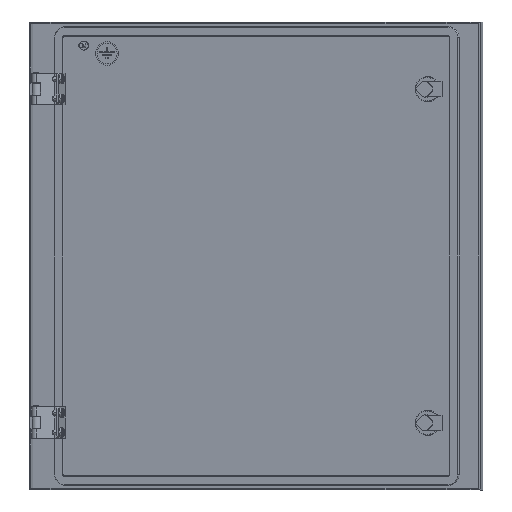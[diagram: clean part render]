
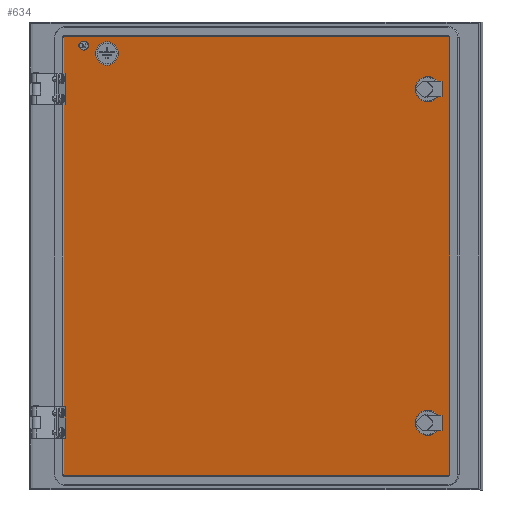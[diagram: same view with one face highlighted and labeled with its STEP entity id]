
A CAD part, left-side view. The second image highlights one B-rep face of the part: STEP entity #634.
In plain terms, the highlighted planar face has unit normal (-0.966, 0.259, 0).
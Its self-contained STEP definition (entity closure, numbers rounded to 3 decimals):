
#4 = DIRECTION ( 'NONE',  ( 0.259, 0.966, 0. ) ) ;
#320 = LINE ( 'NONE', #17538, #16771 ) ;
#327 = DIRECTION ( 'NONE',  ( 0., 0., -1. ) ) ;
#634 = ADVANCED_FACE ( 'NONE', ( #13856, #5663, #15005, #20043, #16892 ), #939, .F. ) ;
#830 = EDGE_CURVE ( 'NONE', #14216, #9685, #3694, .T. ) ;
#939 = PLANE ( 'NONE',  #12724 ) ;
#990 = EDGE_LOOP ( 'NONE', ( #12471, #2583, #7085, #2912, #11957, #3995, #13899, #17190 ) ) ;
#1221 = VERTEX_POINT ( 'NONE', #6758 ) ;
#1523 = CARTESIAN_POINT ( 'NONE',  ( -146.539, -533.058, 237.5 ) ) ;
#1619 = ORIENTED_EDGE ( 'NONE', *, *, #7701, .F. ) ;
#1859 = DIRECTION ( 'NONE',  ( -0.966, 0.259, 0. ) ) ;
#2038 = LINE ( 'NONE', #8443, #19100 ) ;
#2225 = CARTESIAN_POINT ( 'NONE',  ( -33.283, -109.954, 283. ) ) ;
#2331 = CARTESIAN_POINT ( 'NONE',  ( -22.94, -71.314, -255. ) ) ;
#2477 = CARTESIAN_POINT ( 'NONE',  ( -154.038, -561.072, 303. ) ) ;
#2583 = ORIENTED_EDGE ( 'NONE', *, *, #9464, .T. ) ;
#2605 = VECTOR ( 'NONE', #18581, 1000. ) ;
#2912 = ORIENTED_EDGE ( 'NONE', *, *, #11276, .T. ) ;
#2918 = EDGE_CURVE ( 'NONE', #14029, #15462, #19951, .T. ) ;
#2957 = EDGE_CURVE ( 'NONE', #17056, #13392, #18023, .T. ) ;
#3025 = CARTESIAN_POINT ( 'NONE',  ( -37.161, -124.444, 283. ) ) ;
#3071 = DIRECTION ( 'NONE',  ( 0.259, 0.966, 0. ) ) ;
#3278 = CARTESIAN_POINT ( 'NONE',  ( -22.422, -69.382, -253. ) ) ;
#3469 = AXIS2_PLACEMENT_3D ( 'NONE', #19749, #19959, #3997 ) ;
#3513 = EDGE_CURVE ( 'NONE', #15583, #4197, #4635, .T. ) ;
#3694 = CIRCLE ( 'NONE', #5374, 15. ) ;
#3920 = CARTESIAN_POINT ( 'NONE',  ( -150.676, -548.514, -187.5 ) ) ;
#3950 = EDGE_CURVE ( 'NONE', #8184, #14689, #13714, .T. ) ;
#3995 = ORIENTED_EDGE ( 'NONE', *, *, #3513, .F. ) ;
#3997 = DIRECTION ( 'NONE',  ( 0.259, 0.966, 0. ) ) ;
#4048 = VERTEX_POINT ( 'NONE', #14754 ) ;
#4197 = VERTEX_POINT ( 'NONE', #2477 ) ;
#4393 = EDGE_CURVE ( 'NONE', #4048, #15583, #2038, .T. ) ;
#4472 = CIRCLE ( 'NONE', #3469, 2.65 ) ;
#4635 = CIRCLE ( 'NONE', #12354, 2. ) ;
#5070 = AXIS2_PLACEMENT_3D ( 'NONE', #16145, #14568, #8264 ) ;
#5079 = VERTEX_POINT ( 'NONE', #7427 ) ;
#5374 = AXIS2_PLACEMENT_3D ( 'NONE', #3025, #18988, #10689 ) ;
#5663 = FACE_BOUND ( 'NONE', #13782, .T. ) ;
#6040 = EDGE_CURVE ( 'NONE', #4197, #1221, #10098, .T. ) ;
#6206 = CARTESIAN_POINT ( 'NONE',  ( -146.539, -533.058, -187.5 ) ) ;
#6218 = CARTESIAN_POINT ( 'NONE',  ( -22.94, -71.314, -253. ) ) ;
#6244 = CIRCLE ( 'NONE', #13300, 16. ) ;
#6262 = CIRCLE ( 'NONE', #6593, 2. ) ;
#6576 = CARTESIAN_POINT ( 'NONE',  ( -29.404, -95.464, 293. ) ) ;
#6593 = AXIS2_PLACEMENT_3D ( 'NONE', #6218, #19240, #3071 ) ;
#6758 = CARTESIAN_POINT ( 'NONE',  ( -154.038, -561.072, -253. ) ) ;
#6798 = ORIENTED_EDGE ( 'NONE', *, *, #830, .F. ) ;
#6945 = EDGE_LOOP ( 'NONE', ( #1619, #6798 ) ) ;
#7085 = ORIENTED_EDGE ( 'NONE', *, *, #20128, .T. ) ;
#7153 = CIRCLE ( 'NONE', #18890, 2. ) ;
#7198 = CARTESIAN_POINT ( 'NONE',  ( -150.676, -548.514, 237.5 ) ) ;
#7209 = EDGE_CURVE ( 'NONE', #7955, #17262, #18121, .T. ) ;
#7222 = CARTESIAN_POINT ( 'NONE',  ( -30.067, -97.942, 292.334 ) ) ;
#7355 = CARTESIAN_POINT ( 'NONE',  ( -41.04, -138.934, 283. ) ) ;
#7356 = CIRCLE ( 'NONE', #12719, 16. ) ;
#7357 = DIRECTION ( 'NONE',  ( 0.259, 0.966, 0. ) ) ;
#7427 = CARTESIAN_POINT ( 'NONE',  ( -153.521, -559.14, -255. ) ) ;
#7648 = DIRECTION ( 'NONE',  ( 0.966, -0.259, 0. ) ) ;
#7701 = EDGE_CURVE ( 'NONE', #9685, #14216, #11765, .T. ) ;
#7955 = VERTEX_POINT ( 'NONE', #7222 ) ;
#8184 = VERTEX_POINT ( 'NONE', #7198 ) ;
#8264 = DIRECTION ( 'NONE',  ( 0., 0., -1. ) ) ;
#8399 = CARTESIAN_POINT ( 'NONE',  ( -142.402, -517.602, -187.5 ) ) ;
#8443 = CARTESIAN_POINT ( 'NONE',  ( -22.94, -71.314, 305. ) ) ;
#8606 = ORIENTED_EDGE ( 'NONE', *, *, #2957, .F. ) ;
#8969 = EDGE_CURVE ( 'NONE', #14689, #8184, #6244, .T. ) ;
#8973 = AXIS2_PLACEMENT_3D ( 'NONE', #20049, #9024, #12374 ) ;
#9024 = DIRECTION ( 'NONE',  ( -0.966, 0.259, 0. ) ) ;
#9065 = AXIS2_PLACEMENT_3D ( 'NONE', #6576, #1859, #13187 ) ;
#9229 = DIRECTION ( 'NONE',  ( 0., 0., 1. ) ) ;
#9464 = EDGE_CURVE ( 'NONE', #14029, #17477, #6262, .T. ) ;
#9685 = VERTEX_POINT ( 'NONE', #2225 ) ;
#9772 = CARTESIAN_POINT ( 'NONE',  ( -22.94, -71.314, 303. ) ) ;
#10098 = LINE ( 'NONE', #17867, #20764 ) ;
#10684 = AXIS2_PLACEMENT_3D ( 'NONE', #19177, #11391, #12556 ) ;
#10689 = DIRECTION ( 'NONE',  ( 0.259, 0.966, 0. ) ) ;
#10720 = DIRECTION ( 'NONE',  ( -0.966, 0.259, 0. ) ) ;
#11220 = DIRECTION ( 'NONE',  ( 0.259, 0.966, 0. ) ) ;
#11276 = EDGE_CURVE ( 'NONE', #5079, #1221, #12765, .T. ) ;
#11391 = DIRECTION ( 'NONE',  ( -0.966, 0.259, 0. ) ) ;
#11765 = CIRCLE ( 'NONE', #14451, 15. ) ;
#11812 = ORIENTED_EDGE ( 'NONE', *, *, #8969, .F. ) ;
#11957 = ORIENTED_EDGE ( 'NONE', *, *, #6040, .F. ) ;
#11970 = CARTESIAN_POINT ( 'NONE',  ( -22.422, -69.382, 25. ) ) ;
#12170 = CARTESIAN_POINT ( 'NONE',  ( -153.521, -559.14, 303. ) ) ;
#12354 = AXIS2_PLACEMENT_3D ( 'NONE', #12170, #7648, #9229 ) ;
#12374 = DIRECTION ( 'NONE',  ( 0.259, 0.966, 0. ) ) ;
#12471 = ORIENTED_EDGE ( 'NONE', *, *, #2918, .F. ) ;
#12556 = DIRECTION ( 'NONE',  ( 0.259, 0.966, 0. ) ) ;
#12695 = DIRECTION ( 'NONE',  ( 0.966, -0.259, 0. ) ) ;
#12719 = AXIS2_PLACEMENT_3D ( 'NONE', #6206, #14076, #7357 ) ;
#12724 = AXIS2_PLACEMENT_3D ( 'NONE', #13751, #16988, #20148 ) ;
#12765 = CIRCLE ( 'NONE', #5070, 2. ) ;
#13187 = DIRECTION ( 'NONE',  ( 0.259, 0.966, 0. ) ) ;
#13300 = AXIS2_PLACEMENT_3D ( 'NONE', #1523, #15905, #15997 ) ;
#13392 = VERTEX_POINT ( 'NONE', #8399 ) ;
#13714 = CIRCLE ( 'NONE', #10684, 16. ) ;
#13751 = CARTESIAN_POINT ( 'NONE',  ( -105.426, -379.466, 691.5 ) ) ;
#13782 = EDGE_LOOP ( 'NONE', ( #15021, #8606 ) ) ;
#13856 = FACE_OUTER_BOUND ( 'NONE', #990, .T. ) ;
#13897 = CARTESIAN_POINT ( 'NONE',  ( -28.741, -92.987, 293.666 ) ) ;
#13899 = ORIENTED_EDGE ( 'NONE', *, *, #4393, .F. ) ;
#14029 = VERTEX_POINT ( 'NONE', #3278 ) ;
#14076 = DIRECTION ( 'NONE',  ( -0.966, 0.259, 0. ) ) ;
#14216 = VERTEX_POINT ( 'NONE', #7355 ) ;
#14451 = AXIS2_PLACEMENT_3D ( 'NONE', #20375, #10720, #11220 ) ;
#14568 = DIRECTION ( 'NONE',  ( -0.966, 0.259, 0. ) ) ;
#14689 = VERTEX_POINT ( 'NONE', #15621 ) ;
#14747 = ORIENTED_EDGE ( 'NONE', *, *, #7209, .F. ) ;
#14754 = CARTESIAN_POINT ( 'NONE',  ( -22.94, -71.314, 305. ) ) ;
#14837 = DIRECTION ( 'NONE',  ( -0.259, -0.966, 0. ) ) ;
#15005 = FACE_BOUND ( 'NONE', #17328, .T. ) ;
#15021 = ORIENTED_EDGE ( 'NONE', *, *, #19866, .F. ) ;
#15462 = VERTEX_POINT ( 'NONE', #16184 ) ;
#15583 = VERTEX_POINT ( 'NONE', #19733 ) ;
#15621 = CARTESIAN_POINT ( 'NONE',  ( -142.402, -517.602, 237.5 ) ) ;
#15905 = DIRECTION ( 'NONE',  ( -0.966, 0.259, 0. ) ) ;
#15997 = DIRECTION ( 'NONE',  ( 0.259, 0.966, 0. ) ) ;
#16145 = CARTESIAN_POINT ( 'NONE',  ( -153.521, -559.14, -253. ) ) ;
#16184 = CARTESIAN_POINT ( 'NONE',  ( -22.422, -69.382, 303. ) ) ;
#16278 = DIRECTION ( 'NONE',  ( -0.259, -0.966, 0. ) ) ;
#16319 = EDGE_LOOP ( 'NONE', ( #14747, #20695 ) ) ;
#16771 = VECTOR ( 'NONE', #16278, 1000. ) ;
#16892 = FACE_BOUND ( 'NONE', #6945, .T. ) ;
#16988 = DIRECTION ( 'NONE',  ( 0.966, -0.259, 0. ) ) ;
#17056 = VERTEX_POINT ( 'NONE', #3920 ) ;
#17190 = ORIENTED_EDGE ( 'NONE', *, *, #17684, .F. ) ;
#17262 = VERTEX_POINT ( 'NONE', #13897 ) ;
#17328 = EDGE_LOOP ( 'NONE', ( #11812, #20429 ) ) ;
#17477 = VERTEX_POINT ( 'NONE', #2331 ) ;
#17538 = CARTESIAN_POINT ( 'NONE',  ( -22.94, -71.314, -255. ) ) ;
#17553 = EDGE_CURVE ( 'NONE', #17262, #7955, #4472, .T. ) ;
#17684 = EDGE_CURVE ( 'NONE', #15462, #4048, #7153, .T. ) ;
#17867 = CARTESIAN_POINT ( 'NONE',  ( -154.038, -561.072, 303. ) ) ;
#18023 = CIRCLE ( 'NONE', #8973, 16. ) ;
#18121 = CIRCLE ( 'NONE', #9065, 2.65 ) ;
#18581 = DIRECTION ( 'NONE',  ( 0., 0., 1. ) ) ;
#18890 = AXIS2_PLACEMENT_3D ( 'NONE', #9772, #12695, #4 ) ;
#18988 = DIRECTION ( 'NONE',  ( -0.966, 0.259, 0. ) ) ;
#19100 = VECTOR ( 'NONE', #14837, 1000. ) ;
#19177 = CARTESIAN_POINT ( 'NONE',  ( -146.539, -533.058, 237.5 ) ) ;
#19240 = DIRECTION ( 'NONE',  ( -0.966, 0.259, 0. ) ) ;
#19733 = CARTESIAN_POINT ( 'NONE',  ( -153.521, -559.14, 305. ) ) ;
#19749 = CARTESIAN_POINT ( 'NONE',  ( -29.404, -95.464, 293. ) ) ;
#19866 = EDGE_CURVE ( 'NONE', #13392, #17056, #7356, .T. ) ;
#19951 = LINE ( 'NONE', #11970, #2605 ) ;
#19959 = DIRECTION ( 'NONE',  ( -0.966, 0.259, 0. ) ) ;
#20043 = FACE_BOUND ( 'NONE', #16319, .T. ) ;
#20049 = CARTESIAN_POINT ( 'NONE',  ( -146.539, -533.058, -187.5 ) ) ;
#20128 = EDGE_CURVE ( 'NONE', #17477, #5079, #320, .T. ) ;
#20148 = DIRECTION ( 'NONE',  ( 0., 0., -1. ) ) ;
#20375 = CARTESIAN_POINT ( 'NONE',  ( -37.161, -124.444, 283. ) ) ;
#20429 = ORIENTED_EDGE ( 'NONE', *, *, #3950, .F. ) ;
#20695 = ORIENTED_EDGE ( 'NONE', *, *, #17553, .F. ) ;
#20764 = VECTOR ( 'NONE', #327, 1000. ) ;
